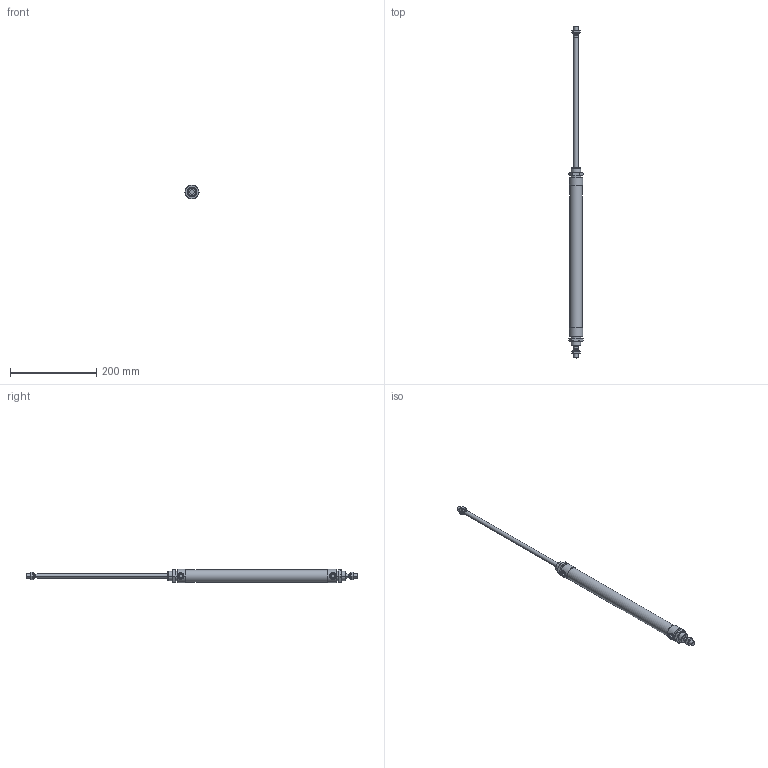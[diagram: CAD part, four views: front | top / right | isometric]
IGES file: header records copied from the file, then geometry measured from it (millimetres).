
Global section: file name: No Iges File Name specified; native system: AutoDesk Inventor R10; preprocessor: AutoDesk Inventor Iges Exporter R10; author: No Author specified; organization: No Organization specified; date: 20060105.143202; units: millimetre
Bounding box: 34.64 x 768 x 31.5 mm (x, y, z)
Volume: 299732.3 mm3; surface area: 81933.1 mm2
Topology: 6 solids, 6 shells, 185 faces, 397 edges, 232 vertices
Faces by surface type: cone 68, plane 62, cylinder 21, bspline 20, revolution 14
Full cylindrical faces by diameter (mm): 29 x1, 31.5 x2
